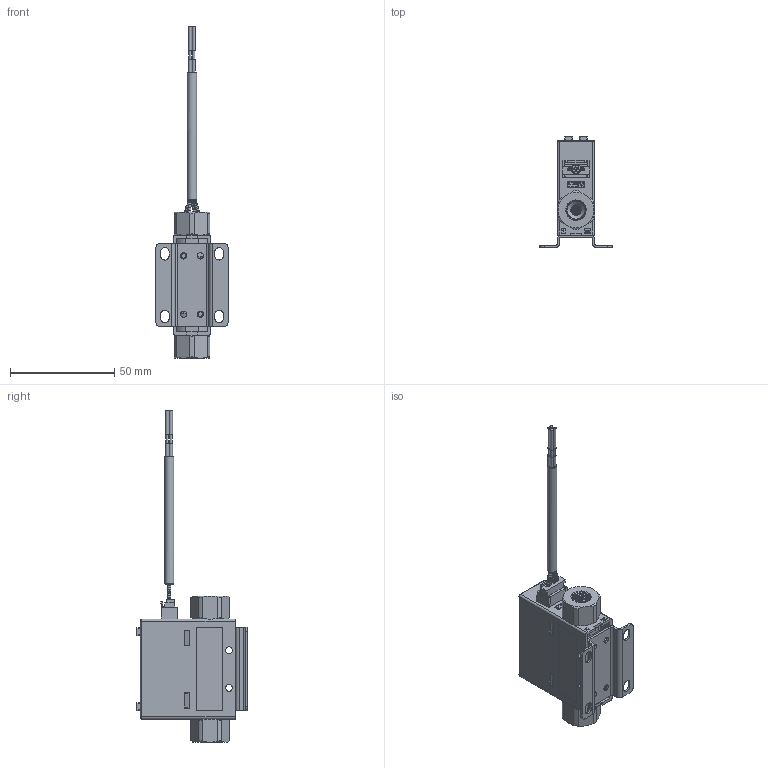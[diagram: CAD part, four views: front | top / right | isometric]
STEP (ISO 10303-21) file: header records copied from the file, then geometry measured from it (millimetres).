
FILE_DESCRIPTION( (''), '2;1');
FILE_NAME( 'QGKK_50L_R1-8.step', '2023-09-13T17:48:35+08:00', (''), (''), '', '', '');
FILE_SCHEMA (('AUTOMOTIVE_DESIGN { 1 0 10303 214 3 1 1 1 }'));
Products named in the file (1): QGKK 50L_R1-8
Bounding box: 34.6 x 53.5 x 159.3 mm (x, y, z)
Volume: 24927.4 mm3; surface area: 30515 mm2
Topology: 5 solids, 10 shells, 2365 faces, 7089 edges, 4725 vertices
Faces by surface type: plane 1375, cylinder 816, torus 77, cone 46, extrusion 38, bspline 10, sphere 3
Full cylindrical faces by diameter (mm): 0.5 x328, 1 x4, 1.5 x8, 2 x3, 2.2 x2, 2.6 x2, 3 x4, 3.3 x4, 4.5 x1, 5 x2, 8 x2, 9 x2, 9.5 x2, 10.5 x2, 12 x4, 12.5 x2, 14 x4
Entity records: 81375 total; most frequent: CARTESIAN_POINT 18496, DIRECTION 12780, ORIENTED_EDGE 12688, EDGE_CURVE 6344, VERTEX_POINT 4385, AXIS2_PLACEMENT_3D 4359, VECTOR 4062, LINE 4024
